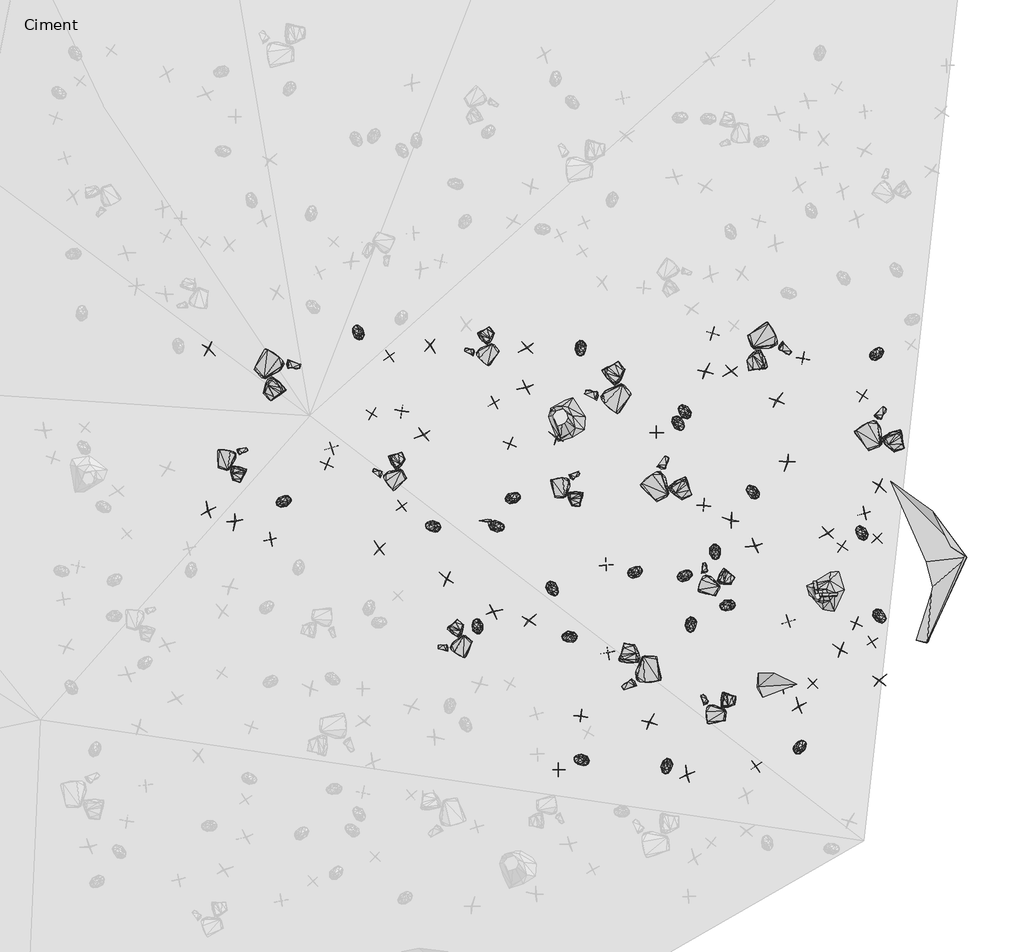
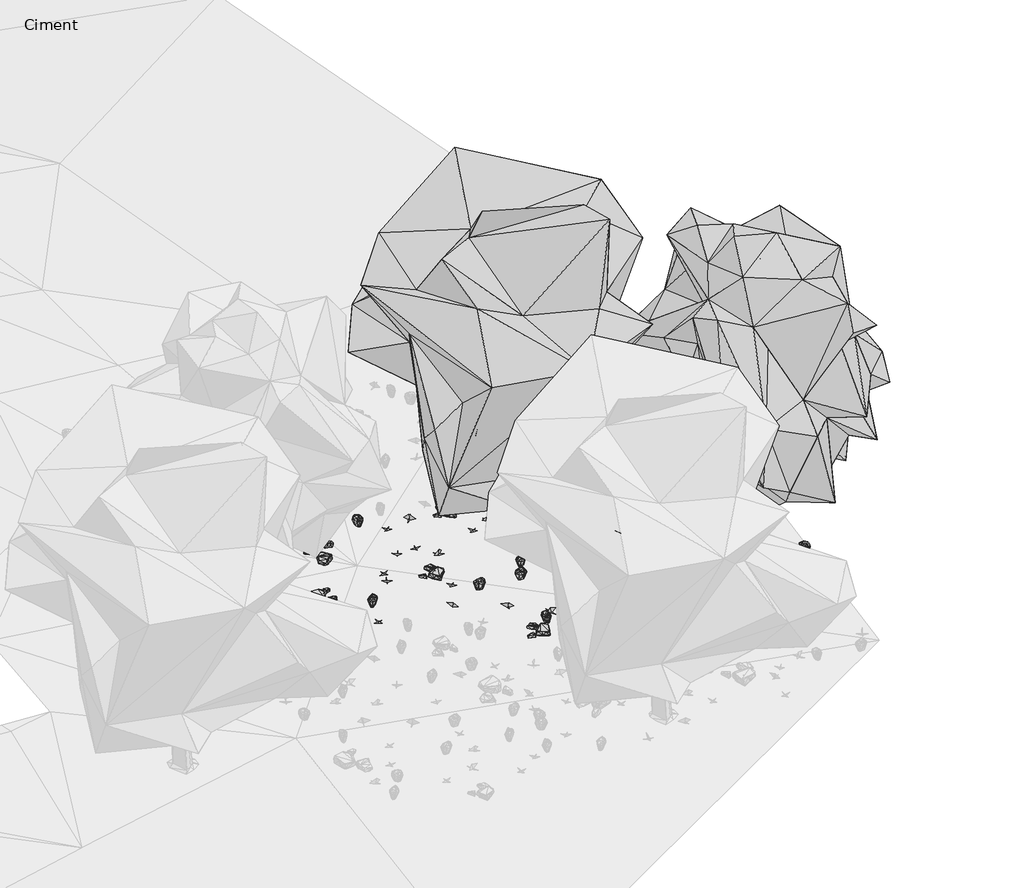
# One storey, part 17 of 30: 90 geographic elements.
"""IFC4 building model written with IfcOpenShell, lengths in millimetres."""

from ifc_helpers import new_model, si_unit, origin, place, context, project, spatial, transform, mapped, element, save
from components import enscape_assetdefinition_bush_025_fern_enscape_5718bf32, enscape_assetdefinition_bush_054_plant_09_version_2_enscape_7b546a12, enscape_assetdefinition_bush_062_plant_09_version_3_enscape_ccf8c8eb, enscape_assetdefinition_deciduous_tree_024_elm_enscape_8f9d8ef3, enscape_assetdefinition_deciduous_tree_029_elm_enscape_e4c49baf, enscape_assetdefinition_stone_013_group_enscape_516da325, enscape_assetdefinition_stone_013_group_enscape_db9b3e91

model = new_model("IFC4")

# Units and contexts
model_context = context("Model", 3, world=origin())
ifc_project = project(units=[si_unit("LENGTHUNIT", "METRE", prefix="MILLI")], contexts=[model_context])

# Site, building, storey
site = spatial("IfcSite", under=ifc_project)
building = spatial("IfcBuilding", under=site)
storey = spatial("IfcBuildingStorey", under=building, Name="Ciment", Elevation=-1500.0)

# Geographic elements
placement = place(None, origin())
enscape_assetdefinition_bush_025_fern_enscape_shape = enscape_assetdefinition_bush_025_fern_enscape_5718bf32(model_context)
element("IfcGeographicElement", 1, ObjectType="Enscape AssetDefinition - Bush 025 Fern : Enscape AssetDefinition - Bush 025 Fern", at=placement, inside=storey, context=model_context, shape_type="MappedRepresentation", body=[
    mapped(enscape_assetdefinition_bush_025_fern_enscape_shape, transform((24476.858139, -12371.3550568, -2653.9306641), x_axis=(0.8553217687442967, 0.5180971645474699, 0.0), y_axis=(-0.5180971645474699, 0.8553217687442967, 0.0), z_axis=(0.0, 0.0, 1.0))),
])
element("IfcGeographicElement", 2, ObjectType="Enscape AssetDefinition - Bush 025 Fern : Enscape AssetDefinition - Bush 025 Fern", at=placement, inside=storey, context=model_context, shape_type="MappedRepresentation", body=[
    mapped(enscape_assetdefinition_bush_025_fern_enscape_shape, transform((27577.1465302, -11607.3093414, -2939.1441345), x_axis=(-0.6570404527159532, 0.7538553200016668, 0.0), y_axis=(-0.7538553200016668, -0.6570404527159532, 0.0), z_axis=(0.0, 0.0, 1.0))),
])
element("IfcGeographicElement", 3, ObjectType="Enscape AssetDefinition - Bush 025 Fern : Enscape AssetDefinition - Bush 025 Fern", at=placement, inside=storey, context=model_context, shape_type="MappedRepresentation", body=[
    mapped(enscape_assetdefinition_bush_025_fern_enscape_shape, transform((24144.3881989, -15725.3093719, -2717.1478271), x_axis=(-0.09133398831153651, -0.9958203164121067, 0.0), y_axis=(0.9958203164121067, -0.09133398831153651, 0.0), z_axis=(0.0, 0.0, 1.0))),
])
element("IfcGeographicElement", 4, ObjectType="Enscape AssetDefinition - Bush 025 Fern : Enscape AssetDefinition - Bush 025 Fern", at=placement, inside=storey, context=model_context, shape_type="MappedRepresentation", body=[
    mapped(enscape_assetdefinition_bush_025_fern_enscape_shape, transform((24996.099472, -11958.524704, -2698.7047195), x_axis=(0.2058725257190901, -0.9785788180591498, 0.0), y_axis=(0.9785788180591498, 0.2058725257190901, 0.0), z_axis=(0.0, 0.0, 1.0))),
])
element("IfcGeographicElement", 5, ObjectType="Enscape AssetDefinition - Bush 025 Fern : Enscape AssetDefinition - Bush 025 Fern", at=placement, inside=storey, context=model_context, shape_type="MappedRepresentation", body=[
    mapped(enscape_assetdefinition_bush_025_fern_enscape_shape, transform((23603.6319733, -12305.9978485, -2570.6484318), x_axis=(0.8403630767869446, 0.5420238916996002, 0.0), y_axis=(-0.5420238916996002, 0.8403630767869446, 0.0), z_axis=(0.0, 0.0, 1.0))),
])
element("IfcGeographicElement", 6, ObjectType="Enscape AssetDefinition - Bush 025 Fern : Enscape AssetDefinition - Bush 025 Fern", at=placement, inside=storey, context=model_context, shape_type="MappedRepresentation", body=[
    mapped(enscape_assetdefinition_bush_025_fern_enscape_shape, transform((25210.767746, -12887.5951767, -2728.7731171), x_axis=(-0.9468713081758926, -0.3216126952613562, 0.0), y_axis=(0.3216126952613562, -0.9468713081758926, 0.0), z_axis=(0.0, 0.0, 1.0))),
])
element("IfcGeographicElement", 7, ObjectType="Enscape AssetDefinition - Bush 025 Fern : Enscape AssetDefinition - Bush 025 Fern", at=placement, inside=storey, context=model_context, shape_type="MappedRepresentation", body=[
    mapped(enscape_assetdefinition_bush_025_fern_enscape_shape, transform((27848.6270905, -8466.4211273, -2931.8127632), x_axis=(0.6441219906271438, 0.7649227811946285, 0.0), y_axis=(-0.7649227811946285, 0.6441219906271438, 0.0), z_axis=(0.0, 0.0, 1.0))),
])
element("IfcGeographicElement", 8, ObjectType="Enscape AssetDefinition - Bush 025 Fern : Enscape AssetDefinition - Bush 025 Fern", at=placement, inside=storey, context=model_context, shape_type="MappedRepresentation", body=[
    mapped(enscape_assetdefinition_bush_025_fern_enscape_shape, transform((17426.7482758, -11062.4742508, -2054.1768074), x_axis=(0.8637022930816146, 0.5040023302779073, 0.0), y_axis=(-0.5040023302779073, 0.8637022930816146, 0.0), z_axis=(0.0, 0.0, 1.0))),
])
element("IfcGeographicElement", 9, ObjectType="Enscape AssetDefinition - Bush 025 Fern : Enscape AssetDefinition - Bush 025 Fern", at=placement, inside=storey, context=model_context, shape_type="MappedRepresentation", body=[
    mapped(enscape_assetdefinition_bush_025_fern_enscape_shape, transform((20036.9548798, -11496.9577789, -2237.1683121), x_axis=(-0.995353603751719, 0.09628708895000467, 0.0), y_axis=(-0.09628708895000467, -0.995353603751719, 0.0), z_axis=(0.0, 0.0, 1.0))),
])
element("IfcGeographicElement", 10, ObjectType="Enscape AssetDefinition - Bush 025 Fern : Enscape AssetDefinition - Bush 025 Fern", at=placement, inside=storey, context=model_context, shape_type="MappedRepresentation", body=[
    mapped(enscape_assetdefinition_bush_025_fern_enscape_shape, transform((24463.7775421, -9476.2401581, -2622.2667694), x_axis=(-0.7099635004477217, 0.7042384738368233, 0.0), y_axis=(-0.7042384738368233, -0.7099635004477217, 0.0), z_axis=(0.0, 0.0, 1.0))),
])
element("IfcGeographicElement", 11, ObjectType="Enscape AssetDefinition - Bush 025 Fern : Enscape AssetDefinition - Bush 025 Fern", at=placement, inside=storey, context=model_context, shape_type="MappedRepresentation", body=[
    mapped(enscape_assetdefinition_bush_025_fern_enscape_shape, transform((24351.644516, -9698.5111237, -2613.9965057), x_axis=(0.655066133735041, -0.7555715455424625, 0.0), y_axis=(0.7555715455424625, 0.655066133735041, 0.0), z_axis=(0.0, 0.0, 1.0))),
])
element("IfcGeographicElement", 12, ObjectType="Enscape AssetDefinition - Bush 025 Fern : Enscape AssetDefinition - Bush 025 Fern", at=placement, inside=storey, context=model_context, shape_type="MappedRepresentation", body=[
    mapped(enscape_assetdefinition_bush_025_fern_enscape_shape, transform((26498.003006, -15376.5583038, -2876.6856194), x_axis=(0.5405246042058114, 0.8413282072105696, 0.0), y_axis=(-0.8413282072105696, 0.5405246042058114, 0.0), z_axis=(0.0, 0.0, 1.0))),
])
element("IfcGeographicElement", 13, ObjectType="Enscape AssetDefinition - Bush 025 Fern : Enscape AssetDefinition - Bush 025 Fern", at=placement, inside=storey, context=model_context, shape_type="MappedRepresentation", body=[
    mapped(enscape_assetdefinition_bush_025_fern_enscape_shape, transform((24570.2724457, -13235.7082367, -2671.849966), x_axis=(0.0005628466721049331, -0.9999998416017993, 0.0), y_axis=(0.9999998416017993, 0.0005628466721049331, 0.0), z_axis=(0.0, 0.0, 1.0))),
])
element("IfcGeographicElement", 14, ObjectType="Enscape AssetDefinition - Bush 025 Fern : Enscape AssetDefinition - Bush 025 Fern", at=placement, inside=storey, context=model_context, shape_type="MappedRepresentation", body=[
    mapped(enscape_assetdefinition_bush_025_fern_enscape_shape, transform((21456.6574097, -11003.7069321, -2353.8887501), x_axis=(0.8968940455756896, 0.44224548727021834, 0.0), y_axis=(-0.44224548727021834, 0.8968940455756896, 0.0), z_axis=(0.0, 0.0, 1.0))),
])
element("IfcGeographicElement", 15, ObjectType="Enscape AssetDefinition - Bush 025 Fern : Enscape AssetDefinition - Bush 025 Fern", at=placement, inside=storey, context=model_context, shape_type="MappedRepresentation", body=[
    mapped(enscape_assetdefinition_bush_025_fern_enscape_shape, transform((22434.7476959, -13439.5503998, -2488.8827801), x_axis=(-0.9888540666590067, -0.14888799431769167, 0.0), y_axis=(0.14888799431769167, -0.9888540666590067, 0.0), z_axis=(0.0, 0.0, 1.0))),
])
element("IfcGeographicElement", 16, ObjectType="Enscape AssetDefinition - Bush 025 Fern : Enscape AssetDefinition - Bush 025 Fern", at=placement, inside=storey, context=model_context, shape_type="MappedRepresentation", body=[
    mapped(enscape_assetdefinition_bush_025_fern_enscape_shape, transform((22632.4806213, -8377.0046234, -2437.5), x_axis=(0.08416086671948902, -0.9964521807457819, 0.0), y_axis=(0.9964521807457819, 0.08416086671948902, 0.0), z_axis=(0.0, 0.0, 1.0))),
])
element("IfcGeographicElement", 17, ObjectType="Enscape AssetDefinition - Bush 025 Fern : Enscape AssetDefinition - Bush 025 Fern", at=placement, inside=storey, context=model_context, shape_type="MappedRepresentation", body=[
    mapped(enscape_assetdefinition_bush_025_fern_enscape_shape, transform((27892.911911, -13087.9831314, -2984.572649), x_axis=(0.7710376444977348, -0.6367895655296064, 0.0), y_axis=(0.6367895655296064, 0.7710376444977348, 0.0), z_axis=(0.0, 0.0, 1.0))),
])
element("IfcGeographicElement", 18, ObjectType="Enscape AssetDefinition - Bush 025 Fern : Enscape AssetDefinition - Bush 025 Fern", at=placement, inside=storey, context=model_context, shape_type="MappedRepresentation", body=[
    mapped(enscape_assetdefinition_bush_025_fern_enscape_shape, transform((25662.2638702, -10889.7304535, -2750.4816055), x_axis=(-0.7705712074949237, 0.6373539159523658, 0.0), y_axis=(-0.6373539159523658, -0.7705712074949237, 0.0), z_axis=(0.0, 0.0, 1.0))),
])
element("IfcGeographicElement", 19, ObjectType="Enscape AssetDefinition - Bush 025 Fern : Enscape AssetDefinition - Bush 025 Fern", at=placement, inside=storey, context=model_context, shape_type="MappedRepresentation", body=[
    mapped(enscape_assetdefinition_bush_025_fern_enscape_shape, transform((20825.2353668, -13249.9828339, -2380.2895546), x_axis=(-0.30903769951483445, 0.9510497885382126, 0.0), y_axis=(-0.9510497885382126, -0.30903769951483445, 0.0), z_axis=(0.0, 0.0, 1.0))),
])
element("IfcGeographicElement", 20, ObjectType="Enscape AssetDefinition - Bush 025 Fern : Enscape AssetDefinition - Bush 025 Fern", at=placement, inside=storey, context=model_context, shape_type="MappedRepresentation", body=[
    mapped(enscape_assetdefinition_bush_025_fern_enscape_shape, transform((22140.2683258, -12606.7676544, -2435.3964329), x_axis=(0.6488297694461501, -0.7609335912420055, 0.0), y_axis=(0.7609335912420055, 0.6488297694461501, 0.0), z_axis=(0.0, 0.0, 1.0))),
])
element("IfcGeographicElement", 21, ObjectType="Enscape AssetDefinition - Bush 025 Fern : Enscape AssetDefinition - Bush 025 Fern", at=placement, inside=storey, context=model_context, shape_type="MappedRepresentation", body=[
    mapped(enscape_assetdefinition_bush_025_fern_enscape_shape, transform((21165.9374237, -11506.1588287, -2331.6712379), x_axis=(0.9928545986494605, -0.11933040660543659, 0.0), y_axis=(0.11933040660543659, 0.9928545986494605, 0.0), z_axis=(0.0, 0.0, 1.0))),
])
element("IfcGeographicElement", 22, ObjectType="Enscape AssetDefinition - Bush 025 Fern : Enscape AssetDefinition - Bush 025 Fern", at=placement, inside=storey, context=model_context, shape_type="MappedRepresentation", body=[
    mapped(enscape_assetdefinition_bush_025_fern_enscape_shape, transform((18728.4107208, -8084.4583511, -2036.693573), x_axis=(-0.5362876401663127, 0.8440352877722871, 0.0), y_axis=(-0.8440352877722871, -0.5362876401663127, 0.0), z_axis=(0.0, 0.0, 1.0))),
])
element("IfcGeographicElement", 23, ObjectType="Enscape AssetDefinition - Bush 025 Fern : Enscape AssetDefinition - Bush 025 Fern", at=placement, inside=storey, context=model_context, shape_type="MappedRepresentation", body=[
    mapped(enscape_assetdefinition_bush_025_fern_enscape_shape, transform((22647.7031708, -15601.7408371, -2619.0233231), x_axis=(-0.9945628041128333, 0.1041385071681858, 0.0), y_axis=(-0.1041385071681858, -0.9945628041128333, 0.0), z_axis=(0.0, 0.0, 1.0))),
])
enscape_assetdefinition_bush_054_plant_09_version_2_enscape_shape = enscape_assetdefinition_bush_054_plant_09_version_2_enscape_7b546a12(model_context)
element("IfcGeographicElement", 24, ObjectType="Enscape AssetDefinition - Bush 054 Plant 09, Version 2 : Enscape AssetDefinition - Bush 054 Plant 09, Version 2", at=placement, inside=storey, context=model_context, shape_type="MappedRepresentation", body=[
    mapped(enscape_assetdefinition_bush_054_plant_09_version_2_enscape_shape, transform((27235.1703644, -11851.8047333, -2909.3675613), x_axis=(-0.8628318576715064, 0.5054910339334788, 0.0), y_axis=(-0.5054910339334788, -0.8628318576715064, 0.0), z_axis=(0.0, 0.0, 1.0))),
])
element("IfcGeographicElement", 25, ObjectType="Enscape AssetDefinition - Bush 054 Plant 09, Version 2 : Enscape AssetDefinition - Bush 054 Plant 09, Version 2", at=placement, inside=storey, context=model_context, shape_type="MappedRepresentation", body=[
    mapped(enscape_assetdefinition_bush_054_plant_09_version_2_enscape_shape, transform((23122.0722198, -13721.1475372, -2546.1249352), x_axis=(-0.2229582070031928, 0.9748280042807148, 0.0), y_axis=(-0.9748280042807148, -0.2229582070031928, 0.0), z_axis=(0.0, 0.0, 1.0))),
])
element("IfcGeographicElement", 26, ObjectType="Enscape AssetDefinition - Bush 054 Plant 09, Version 2 : Enscape AssetDefinition - Bush 054 Plant 09, Version 2", at=placement, inside=storey, context=model_context, shape_type="MappedRepresentation", body=[
    mapped(enscape_assetdefinition_bush_054_plant_09_version_2_enscape_shape, transform((18967.6036835, -9526.9422531, -2102.9396057), x_axis=(0.8827596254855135, -0.46982490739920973, 0.0), y_axis=(0.46982490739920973, 0.8827596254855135, 0.0), z_axis=(0.0, 0.0, 1.0))),
])
element("IfcGeographicElement", 27, ObjectType="Enscape AssetDefinition - Bush 054 Plant 09, Version 2 : Enscape AssetDefinition - Bush 054 Plant 09, Version 2", at=placement, inside=storey, context=model_context, shape_type="MappedRepresentation", body=[
    mapped(enscape_assetdefinition_bush_054_plant_09_version_2_enscape_shape, transform((27852.7431488, -11708.1651688, -2966.2714005), x_axis=(-0.7366439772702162, 0.6762807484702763, 0.0), y_axis=(-0.6762807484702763, -0.7366439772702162, 0.0), z_axis=(0.0, 0.0, 1.0))),
])
element("IfcGeographicElement", 28, ObjectType="Enscape AssetDefinition - Bush 054 Plant 09, Version 2 : Enscape AssetDefinition - Bush 054 Plant 09, Version 2", at=placement, inside=storey, context=model_context, shape_type="MappedRepresentation", body=[
    mapped(enscape_assetdefinition_bush_054_plant_09_version_2_enscape_shape, transform((25718.4505463, -15712.7513885, -2812.6249313), x_axis=(-0.7864803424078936, -0.6176153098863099, 0.0), y_axis=(0.6176153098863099, -0.7864803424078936, 0.0), z_axis=(0.0, 0.0, 1.0))),
])
element("IfcGeographicElement", 29, ObjectType="Enscape AssetDefinition - Bush 054 Plant 09, Version 2 : Enscape AssetDefinition - Bush 054 Plant 09, Version 2", at=placement, inside=storey, context=model_context, shape_type="MappedRepresentation", body=[
    mapped(enscape_assetdefinition_bush_054_plant_09_version_2_enscape_shape, transform((18174.4976044, -10408.5941315, -2064.4335747), x_axis=(-0.33300567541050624, -0.9429248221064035, 0.0), y_axis=(0.9429248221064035, -0.33300567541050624, 0.0), z_axis=(0.0, 0.0, 1.0))),
])
element("IfcGeographicElement", 30, ObjectType="Enscape AssetDefinition - Bush 054 Plant 09, Version 2 : Enscape AssetDefinition - Bush 054 Plant 09, Version 2", at=placement, inside=storey, context=model_context, shape_type="MappedRepresentation", body=[
    mapped(enscape_assetdefinition_bush_054_plant_09_version_2_enscape_shape, transform((18264.2803192, -10121.7861176, -2054.3808937), x_axis=(-0.33673991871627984, 0.9415976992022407, 0.0), y_axis=(-0.9415976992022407, -0.33673991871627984, 0.0), z_axis=(0.0, 0.0, 1.0))),
])
element("IfcGeographicElement", 31, ObjectType="Enscape AssetDefinition - Bush 054 Plant 09, Version 2 : Enscape AssetDefinition - Bush 054 Plant 09, Version 2", at=placement, inside=storey, context=model_context, shape_type="MappedRepresentation", body=[
    mapped(enscape_assetdefinition_bush_054_plant_09_version_2_enscape_shape, transform((26284.8796844, -13176.1074066, -2833.40168), x_axis=(0.35390799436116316, -0.9352802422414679, 0.0), y_axis=(0.9352802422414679, 0.35390799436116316, 0.0), z_axis=(0.0, 0.0, 1.0))),
])
element("IfcGeographicElement", 32, ObjectType="Enscape AssetDefinition - Bush 054 Plant 09, Version 2 : Enscape AssetDefinition - Bush 054 Plant 09, Version 2", at=placement, inside=storey, context=model_context, shape_type="MappedRepresentation", body=[
    mapped(enscape_assetdefinition_bush_054_plant_09_version_2_enscape_shape, transform((22635.427475, -14834.8636627, -2576.7300129), x_axis=(-0.0638697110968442, -0.9979582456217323, 0.0), y_axis=(0.9979582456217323, -0.0638697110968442, 0.0), z_axis=(0.0, 0.0, 1.0))),
])
element("IfcGeographicElement", 33, ObjectType="Enscape AssetDefinition - Bush 054 Plant 09, Version 2 : Enscape AssetDefinition - Bush 054 Plant 09, Version 2", at=placement, inside=storey, context=model_context, shape_type="MappedRepresentation", body=[
    mapped(enscape_assetdefinition_bush_054_plant_09_version_2_enscape_shape, transform((17187.9863739, -11736.6695404, -2076.1146545), x_axis=(0.9692693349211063, 0.24600194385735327, 0.0), y_axis=(-0.24600194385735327, 0.9692693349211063, 0.0), z_axis=(0.0, 0.0, 1.0))),
])
element("IfcGeographicElement", 34, ObjectType="Enscape AssetDefinition - Bush 054 Plant 09, Version 2 : Enscape AssetDefinition - Bush 054 Plant 09, Version 2", at=placement, inside=storey, context=model_context, shape_type="MappedRepresentation", body=[
    mapped(enscape_assetdefinition_bush_054_plant_09_version_2_enscape_shape, transform((24957.1781158, -8106.836319, -2654.5436382), x_axis=(-0.9748022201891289, 0.22307091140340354, 0.0), y_axis=(-0.22307091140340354, -0.9748022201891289, 0.0), z_axis=(0.0, 0.0, 1.0))),
])
element("IfcGeographicElement", 35, ObjectType="Enscape AssetDefinition - Bush 054 Plant 09, Version 2 : Enscape AssetDefinition - Bush 054 Plant 09, Version 2", at=placement, inside=storey, context=model_context, shape_type="MappedRepresentation", body=[
    mapped(enscape_assetdefinition_bush_054_plant_09_version_2_enscape_shape, transform((26720.1099396, -14265.3522491, -2886.0154152), x_axis=(0.6772653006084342, 0.7357388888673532, 0.0), y_axis=(-0.7357388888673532, 0.6772653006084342, 0.0), z_axis=(0.0, 0.0, 1.0))),
])
element("IfcGeographicElement", 36, ObjectType="Enscape AssetDefinition - Bush 054 Plant 09, Version 2 : Enscape AssetDefinition - Bush 054 Plant 09, Version 2", at=placement, inside=storey, context=model_context, shape_type="MappedRepresentation", body=[
    mapped(enscape_assetdefinition_bush_054_plant_09_version_2_enscape_shape, transform((27625.711441, -11277.2769928, -2940.2694702), x_axis=(0.9551518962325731, 0.29611628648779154, 0.0), y_axis=(-0.29611628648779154, 0.9551518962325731, 0.0), z_axis=(0.0, 0.0, 1.0))),
])
element("IfcGeographicElement", 37, ObjectType="Enscape AssetDefinition - Bush 054 Plant 09, Version 2 : Enscape AssetDefinition - Bush 054 Plant 09, Version 2", at=placement, inside=storey, context=model_context, shape_type="MappedRepresentation", body=[
    mapped(enscape_assetdefinition_bush_054_plant_09_version_2_enscape_shape, transform((23080.9421539, -12178.776741, -2519.8726654), x_axis=(0.09307199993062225, -0.9956593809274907, 0.0), y_axis=(0.9956593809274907, 0.09307199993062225, 0.0), z_axis=(0.0, 0.0, 1.0))),
])
element("IfcGeographicElement", 38, ObjectType="Enscape AssetDefinition - Bush 054 Plant 09, Version 2 : Enscape AssetDefinition - Bush 054 Plant 09, Version 2", at=placement, inside=storey, context=model_context, shape_type="MappedRepresentation", body=[
    mapped(enscape_assetdefinition_bush_054_plant_09_version_2_enscape_shape, transform((19280.5156708, -8512.4378204, -2121.8745708), x_axis=(0.7826651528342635, 0.6224429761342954, 0.0), y_axis=(-0.6224429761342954, 0.7826651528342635, 0.0), z_axis=(0.0, 0.0, 1.0))),
])
element("IfcGeographicElement", 39, ObjectType="Enscape AssetDefinition - Bush 054 Plant 09, Version 2 : Enscape AssetDefinition - Bush 054 Plant 09, Version 2", at=placement, inside=storey, context=model_context, shape_type="MappedRepresentation", body=[
    mapped(enscape_assetdefinition_bush_054_plant_09_version_2_enscape_shape, transform((21120.5768585, -9332.4136734, -2304.5358658), x_axis=(0.8509422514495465, 0.5252592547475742, 0.0), y_axis=(-0.5252592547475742, 0.8509422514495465, 0.0), z_axis=(0.0, 0.0, 1.0))),
])
element("IfcGeographicElement", 40, ObjectType="Enscape AssetDefinition - Bush 054 Plant 09, Version 2 : Enscape AssetDefinition - Bush 054 Plant 09, Version 2", at=placement, inside=storey, context=model_context, shape_type="MappedRepresentation", body=[
    mapped(enscape_assetdefinition_bush_054_plant_09_version_2_enscape_shape, transform((19495.0199127, -9478.811264, -2152.3199081), x_axis=(0.09589403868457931, 0.9953915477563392, 0.0), y_axis=(-0.9953915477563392, 0.09589403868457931, 0.0), z_axis=(0.0, 0.0, 1.0))),
])
element("IfcGeographicElement", 41, ObjectType="Enscape AssetDefinition - Bush 054 Plant 09, Version 2 : Enscape AssetDefinition - Bush 054 Plant 09, Version 2", at=placement, inside=storey, context=model_context, shape_type="MappedRepresentation", body=[
    mapped(enscape_assetdefinition_bush_054_plant_09_version_2_enscape_shape, transform((27477.8347015, -13203.7248611, -2946.5281963), x_axis=(-0.9475351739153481, 0.31965151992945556, 0.0), y_axis=(-0.31965151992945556, -0.9475351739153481, 0.0), z_axis=(0.0, 0.0, 1.0))),
])
element("IfcGeographicElement", 42, ObjectType="Enscape AssetDefinition - Bush 054 Plant 09, Version 2 : Enscape AssetDefinition - Bush 054 Plant 09, Version 2", at=placement, inside=storey, context=model_context, shape_type="MappedRepresentation", body=[
    mapped(enscape_assetdefinition_bush_054_plant_09_version_2_enscape_shape, transform((19499.4754791, -11151.6857147, -2185.6300831), x_axis=(0.7582413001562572, 0.6519740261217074, 0.0), y_axis=(-0.6519740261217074, 0.7582413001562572, 0.0), z_axis=(0.0, 0.0, 1.0))),
])
element("IfcGeographicElement", 43, ObjectType="Enscape AssetDefinition - Bush 054 Plant 09, Version 2 : Enscape AssetDefinition - Bush 054 Plant 09, Version 2", at=placement, inside=storey, context=model_context, shape_type="MappedRepresentation", body=[
    mapped(enscape_assetdefinition_bush_054_plant_09_version_2_enscape_shape, transform((21390.7985687, -10048.2473373, -2337.6178741), x_axis=(-0.3190666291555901, -0.947732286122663, 0.0), y_axis=(0.947732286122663, -0.3190666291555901, 0.0), z_axis=(0.0, 0.0, 1.0))),
])
element("IfcGeographicElement", 44, ObjectType="Enscape AssetDefinition - Bush 054 Plant 09, Version 2 : Enscape AssetDefinition - Bush 054 Plant 09, Version 2", at=placement, inside=storey, context=model_context, shape_type="MappedRepresentation", body=[
    mapped(enscape_assetdefinition_bush_054_plant_09_version_2_enscape_shape, transform((23964.7121429, -9851.4728546, -2579.0057182), x_axis=(0.06889170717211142, -0.9976241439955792, 0.0), y_axis=(0.9976241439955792, 0.06889170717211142, 0.0), z_axis=(0.0, 0.0, 1.0))),
])
element("IfcGeographicElement", 45, ObjectType="Enscape AssetDefinition - Bush 054 Plant 09, Version 2 : Enscape AssetDefinition - Bush 054 Plant 09, Version 2", at=placement, inside=storey, context=model_context, shape_type="MappedRepresentation", body=[
    mapped(enscape_assetdefinition_bush_054_plant_09_version_2_enscape_shape, transform((27757.8105927, -13526.2851715, -2976.3996601), x_axis=(-0.8101010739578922, -0.5862902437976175, 0.0), y_axis=(0.5862902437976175, -0.8101010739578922, 0.0), z_axis=(0.0, 0.0, 1.0))),
])
element("IfcGeographicElement", 46, ObjectType="Enscape AssetDefinition - Bush 054 Plant 09, Version 2 : Enscape AssetDefinition - Bush 054 Plant 09, Version 2", at=placement, inside=storey, context=model_context, shape_type="MappedRepresentation", body=[
    mapped(enscape_assetdefinition_bush_054_plant_09_version_2_enscape_shape, transform((27594.0265656, -9204.410553, -2915.4868126), x_axis=(0.8759943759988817, -0.48232131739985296, 0.0), y_axis=(0.48232131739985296, 0.8759943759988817, 0.0), z_axis=(0.0, 0.0, 1.0))),
])
element("IfcGeographicElement", 47, ObjectType="Enscape AssetDefinition - Bush 054 Plant 09, Version 2 : Enscape AssetDefinition - Bush 054 Plant 09, Version 2", at=placement, inside=storey, context=model_context, shape_type="MappedRepresentation", body=[
    mapped(enscape_assetdefinition_bush_054_plant_09_version_2_enscape_shape, transform((24797.6589203, -11130.1250458, -2671.2291241), x_axis=(-0.021098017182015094, -0.9997774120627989, 0.0), y_axis=(0.9997774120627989, -0.021098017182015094, 0.0), z_axis=(0.0, 0.0, 1.0))),
])
element("IfcGeographicElement", 48, ObjectType="Enscape AssetDefinition - Bush 054 Plant 09, Version 2 : Enscape AssetDefinition - Bush 054 Plant 09, Version 2", at=placement, inside=storey, context=model_context, shape_type="MappedRepresentation", body=[
    mapped(enscape_assetdefinition_bush_054_plant_09_version_2_enscape_shape, transform((26541.1586761, -8548.1281281, -2809.00383), x_axis=(-0.12236940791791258, -0.9924846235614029, 0.0), y_axis=(0.9924846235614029, -0.12236940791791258, 0.0), z_axis=(0.0, 0.0, 1.0))),
])
element("IfcGeographicElement", 49, ObjectType="Enscape AssetDefinition - Bush 054 Plant 09, Version 2 : Enscape AssetDefinition - Bush 054 Plant 09, Version 2", at=placement, inside=storey, context=model_context, shape_type="MappedRepresentation", body=[
    mapped(enscape_assetdefinition_bush_054_plant_09_version_2_enscape_shape, transform((22246.5267181, -15777.8272629, -2604.0554047), x_axis=(-0.9984560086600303, -0.0555481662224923, 0.0), y_axis=(0.0555481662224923, -0.9984560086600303, 0.0), z_axis=(0.0, 0.0, 1.0))),
])
enscape_assetdefinition_bush_062_plant_09_version_3_enscape_shape = enscape_assetdefinition_bush_062_plant_09_version_3_enscape_ccf8c8eb(model_context)
element("IfcGeographicElement", 50, ObjectType="Enscape AssetDefinition - Bush 062 Plant 09, Version 3 : Enscape AssetDefinition - Bush 062 Plant 09, Version 3", at=placement, inside=storey, context=model_context, shape_type="MappedRepresentation", body=[
    mapped(enscape_assetdefinition_bush_062_plant_09_version_3_enscape_shape, transform((26091.5870667, -9277.9598236, -2774.1513252), x_axis=(0.9693727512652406, -0.24559411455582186, 0.0), y_axis=(0.24559411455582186, 0.9693727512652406, 0.0), z_axis=(0.0, 0.0, 1.0))),
])
element("IfcGeographicElement", 51, ObjectType="Enscape AssetDefinition - Bush 062 Plant 09, Version 3 : Enscape AssetDefinition - Bush 062 Plant 09, Version 3", at=placement, inside=storey, context=model_context, shape_type="MappedRepresentation", body=[
    mapped(enscape_assetdefinition_bush_062_plant_09_version_3_enscape_shape, transform((20272.1767426, -12417.8905487, -2301.4268875), x_axis=(0.3141749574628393, 0.949365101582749, 0.0), y_axis=(-0.949365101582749, 0.3141749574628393, 0.0), z_axis=(0.0, 0.0, 1.0))),
])
element("IfcGeographicElement", 52, ObjectType="Enscape AssetDefinition - Bush 062 Plant 09, Version 3 : Enscape AssetDefinition - Bush 062 Plant 09, Version 3", at=placement, inside=storey, context=model_context, shape_type="MappedRepresentation", body=[
    mapped(enscape_assetdefinition_bush_062_plant_09_version_3_enscape_shape, transform((21666.7976379, -9065.0787354, -2353.3914089), x_axis=(-0.5471867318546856, 0.8370105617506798, 0.0), y_axis=(-0.8370105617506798, -0.5471867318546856, 0.0), z_axis=(0.0, 0.0, 1.0))),
])
element("IfcGeographicElement", 53, ObjectType="Enscape AssetDefinition - Bush 062 Plant 09, Version 3 : Enscape AssetDefinition - Bush 062 Plant 09, Version 3", at=placement, inside=storey, context=model_context, shape_type="MappedRepresentation", body=[
    mapped(enscape_assetdefinition_bush_062_plant_09_version_3_enscape_shape, transform((24831.4990997, -8768.4745789, -2649.6100426), x_axis=(0.9943330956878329, -0.10630942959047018, 0.0), y_axis=(0.10630942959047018, 0.9943330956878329, 0.0), z_axis=(0.0, 0.0, 1.0))),
])
element("IfcGeographicElement", 54, ObjectType="Enscape AssetDefinition - Bush 062 Plant 09, Version 3 : Enscape AssetDefinition - Bush 062 Plant 09, Version 3", at=placement, inside=storey, context=model_context, shape_type="MappedRepresentation", body=[
    mapped(enscape_assetdefinition_bush_062_plant_09_version_3_enscape_shape, transform((26270.2693939, -10381.685257, -2802.6511669), x_axis=(-0.9966463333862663, -0.08182961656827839, 0.0), y_axis=(0.08182961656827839, -0.9966463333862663, 0.0), z_axis=(0.0, 0.0, 1.0))),
])
element("IfcGeographicElement", 55, ObjectType="Enscape AssetDefinition - Bush 062 Plant 09, Version 3 : Enscape AssetDefinition - Bush 062 Plant 09, Version 3", at=placement, inside=storey, context=model_context, shape_type="MappedRepresentation", body=[
    mapped(enscape_assetdefinition_bush_062_plant_09_version_3_enscape_shape, transform((27894.0753937, -10793.7450409, -2960.5712891), x_axis=(-0.34432029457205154, -0.9388522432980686, 0.0), y_axis=(0.9388522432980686, -0.34432029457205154, 0.0), z_axis=(0.0, 0.0, 1.0))),
])
element("IfcGeographicElement", 56, ObjectType="Enscape AssetDefinition - Bush 062 Plant 09, Version 3 : Enscape AssetDefinition - Bush 062 Plant 09, Version 3", at=placement, inside=storey, context=model_context, shape_type="MappedRepresentation", body=[
    mapped(enscape_assetdefinition_bush_062_plant_09_version_3_enscape_shape, transform((16561.6207123, -11425.4932404, -2020.9934711), x_axis=(-0.9736658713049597, -0.22797976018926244, 0.0), y_axis=(0.22797976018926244, -0.9736658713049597, 0.0), z_axis=(0.0, 0.0, 1.0))),
])
element("IfcGeographicElement", 57, ObjectType="Enscape AssetDefinition - Bush 062 Plant 09, Version 3 : Enscape AssetDefinition - Bush 062 Plant 09, Version 3", at=placement, inside=storey, context=model_context, shape_type="MappedRepresentation", body=[
    mapped(enscape_assetdefinition_bush_062_plant_09_version_3_enscape_shape, transform((25272.6268768, -11395.2732086, -2718.9407349), x_axis=(-0.08271480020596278, 0.9965732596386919, 0.0), y_axis=(-0.9965732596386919, -0.08271480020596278, 0.0), z_axis=(0.0, 0.0, 1.0))),
])
element("IfcGeographicElement", 58, ObjectType="Enscape AssetDefinition - Bush 062 Plant 09, Version 3 : Enscape AssetDefinition - Bush 062 Plant 09, Version 3", at=placement, inside=storey, context=model_context, shape_type="MappedRepresentation", body=[
    mapped(enscape_assetdefinition_bush_062_plant_09_version_3_enscape_shape, transform((27195.9400177, -13668.390274, -2924.7481823), x_axis=(0.2387552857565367, 0.9710797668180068, 0.0), y_axis=(-0.9710797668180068, 0.2387552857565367, 0.0), z_axis=(0.0, 0.0, 1.0))),
])
element("IfcGeographicElement", 59, ObjectType="Enscape AssetDefinition - Bush 062 Plant 09, Version 3 : Enscape AssetDefinition - Bush 062 Plant 09, Version 3", at=placement, inside=storey, context=model_context, shape_type="MappedRepresentation", body=[
    mapped(enscape_assetdefinition_bush_062_plant_09_version_3_enscape_shape, transform((24501.499176, -15857.4972153, -2746.1242676), x_axis=(0.8701462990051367, 0.49279348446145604, 0.0), y_axis=(-0.49279348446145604, 0.8701462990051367, 0.0), z_axis=(0.0, 0.0, 1.0))),
])
element("IfcGeographicElement", 60, ObjectType="Enscape AssetDefinition - Bush 062 Plant 09, Version 3 : Enscape AssetDefinition - Bush 062 Plant 09, Version 3", at=placement, inside=storey, context=model_context, shape_type="MappedRepresentation", body=[
    mapped(enscape_assetdefinition_bush_062_plant_09_version_3_enscape_shape, transform((16104.7897339, -8387.5522614, -1715.1277065), x_axis=(-0.36278107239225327, -0.9318743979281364, 0.0), y_axis=(0.9318743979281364, -0.36278107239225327, 0.0), z_axis=(0.0, 0.0, 1.0))),
])
element("IfcGeographicElement", 61, ObjectType="Enscape AssetDefinition - Bush 062 Plant 09, Version 3 : Enscape AssetDefinition - Bush 062 Plant 09, Version 3", at=placement, inside=storey, context=model_context, shape_type="MappedRepresentation", body=[
    mapped(enscape_assetdefinition_bush_062_plant_09_version_3_enscape_shape, transform((23849.6208191, -14933.4154129, -2656.2418938), x_axis=(0.990316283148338, -0.1388296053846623, 0.0), y_axis=(0.1388296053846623, 0.990316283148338, 0.0), z_axis=(0.0, 0.0, 1.0))),
])
element("IfcGeographicElement", 62, ObjectType="Enscape AssetDefinition - Bush 062 Plant 09, Version 3 : Enscape AssetDefinition - Bush 062 Plant 09, Version 3", at=placement, inside=storey, context=model_context, shape_type="MappedRepresentation", body=[
    mapped(enscape_assetdefinition_bush_062_plant_09_version_3_enscape_shape, transform((21735.7616425, -13148.0426788, -2430.390358), x_axis=(0.8932879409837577, -0.44948487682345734, 0.0), y_axis=(0.44948487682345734, 0.8932879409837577, 0.0), z_axis=(0.0, 0.0, 1.0))),
])
element("IfcGeographicElement", 63, ObjectType="Enscape AssetDefinition - Bush 062 Plant 09, Version 3 : Enscape AssetDefinition - Bush 062 Plant 09, Version 3", at=placement, inside=storey, context=model_context, shape_type="MappedRepresentation", body=[
    mapped(enscape_assetdefinition_bush_062_plant_09_version_3_enscape_shape, transform((19864.780426, -9896.7723846, -2191.6861534), x_axis=(-0.6924868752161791, 0.7214304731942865, 0.0), y_axis=(-0.7214304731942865, -0.6924868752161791, 0.0), z_axis=(0.0, 0.0, 1.0))),
])
element("IfcGeographicElement", 64, ObjectType="Enscape AssetDefinition - Bush 062 Plant 09, Version 3 : Enscape AssetDefinition - Bush 062 Plant 09, Version 3", at=placement, inside=storey, context=model_context, shape_type="MappedRepresentation", body=[
    mapped(enscape_assetdefinition_bush_062_plant_09_version_3_enscape_shape, transform((25276.3462067, -8784.3360901, -2691.8525696), x_axis=(-0.7865501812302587, 0.6175263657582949, 0.0), y_axis=(-0.6175263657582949, -0.7865501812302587, 0.0), z_axis=(0.0, 0.0, 1.0))),
])
element("IfcGeographicElement", 65, ObjectType="Enscape AssetDefinition - Bush 062 Plant 09, Version 3 : Enscape AssetDefinition - Bush 062 Plant 09, Version 3", at=placement, inside=storey, context=model_context, shape_type="MappedRepresentation", body=[
    mapped(enscape_assetdefinition_bush_062_plant_09_version_3_enscape_shape, transform((21114.0155792, -12994.058609, -2384.0668201), x_axis=(0.5364904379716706, -0.8439063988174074, 0.0), y_axis=(0.8439063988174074, 0.5364904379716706, 0.0), z_axis=(0.0, 0.0, 1.0))),
])
element("IfcGeographicElement", 66, ObjectType="Enscape AssetDefinition - Bush 062 Plant 09, Version 3 : Enscape AssetDefinition - Bush 062 Plant 09, Version 3", at=placement, inside=storey, context=model_context, shape_type="MappedRepresentation", body=[
    mapped(enscape_assetdefinition_bush_062_plant_09_version_3_enscape_shape, transform((26467.4472809, -14656.6295624, -2866.2285805), x_axis=(0.7967486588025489, 0.6043108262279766, 0.0), y_axis=(-0.6043108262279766, 0.7967486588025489, 0.0), z_axis=(0.0, 0.0, 1.0))),
])
element("IfcGeographicElement", 67, ObjectType="Enscape AssetDefinition - Bush 062 Plant 09, Version 3 : Enscape AssetDefinition - Bush 062 Plant 09, Version 3", at=placement, inside=storey, context=model_context, shape_type="MappedRepresentation", body=[
    mapped(enscape_assetdefinition_bush_062_plant_09_version_3_enscape_shape, transform((20001.3046265, -8327.4230957, -2188.1062984), x_axis=(-0.5716387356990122, -0.8205054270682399, 0.0), y_axis=(0.8205054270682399, -0.5716387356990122, 0.0), z_axis=(0.0, 0.0, 1.0))),
])
element("IfcGeographicElement", 68, ObjectType="Enscape AssetDefinition - Bush 062 Plant 09, Version 3 : Enscape AssetDefinition - Bush 062 Plant 09, Version 3", at=placement, inside=storey, context=model_context, shape_type="MappedRepresentation", body=[
    mapped(enscape_assetdefinition_bush_062_plant_09_version_3_enscape_shape, transform((16084.7606659, -11215.0554657, -1973.5238552), x_axis=(0.8278378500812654, 0.5609674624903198, 0.0), y_axis=(-0.5609674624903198, 0.8278378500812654, 0.0), z_axis=(0.0, 0.0, 1.0))),
])
element("IfcGeographicElement", 69, ObjectType="Enscape AssetDefinition - Bush 062 Plant 09, Version 3 : Enscape AssetDefinition - Bush 062 Plant 09, Version 3", at=placement, inside=storey, context=model_context, shape_type="MappedRepresentation", body=[
    mapped(enscape_assetdefinition_bush_062_plant_09_version_3_enscape_shape, transform((22202.7111053, -9935.7738495, -2413.2313728), x_axis=(0.26798529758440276, 0.9634230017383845, 0.0), y_axis=(-0.9634230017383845, 0.26798529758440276, 0.0), z_axis=(0.0, 0.0, 1.0))),
])
element("IfcGeographicElement", 70, ObjectType="Enscape AssetDefinition - Bush 062 Plant 09, Version 3 : Enscape AssetDefinition - Bush 062 Plant 09, Version 3", at=placement, inside=storey, context=model_context, shape_type="MappedRepresentation", body=[
    mapped(enscape_assetdefinition_bush_062_plant_09_version_3_enscape_shape, transform((21684.6637726, -8370.0046539, -2347.7759361), x_axis=(-0.760455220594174, 0.6493903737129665, 0.0), y_axis=(-0.6493903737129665, -0.760455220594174, 0.0), z_axis=(0.0, 0.0, 1.0))),
])
element("IfcGeographicElement", 71, ObjectType="Enscape AssetDefinition - Bush 062 Plant 09, Version 3 : Enscape AssetDefinition - Bush 062 Plant 09, Version 3", at=placement, inside=storey, context=model_context, shape_type="MappedRepresentation", body=[
    mapped(enscape_assetdefinition_bush_062_plant_09_version_3_enscape_shape, transform((26196.9738007, -14300.3702164, -2836.90238), x_axis=(0.28458459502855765, -0.9586509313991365, 0.0), y_axis=(0.9586509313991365, 0.28458459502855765, 0.0), z_axis=(0.0, 0.0, 1.0))),
])
element("IfcGeographicElement", 72, ObjectType="Enscape AssetDefinition - Bush 062 Plant 09, Version 3 : Enscape AssetDefinition - Bush 062 Plant 09, Version 3", at=placement, inside=storey, context=model_context, shape_type="MappedRepresentation", body=[
    mapped(enscape_assetdefinition_bush_062_plant_09_version_3_enscape_shape, transform((26971.6720581, -11627.7246475, -2882.0898533), x_axis=(-0.7642944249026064, 0.6448674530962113, 0.0), y_axis=(-0.6448674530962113, -0.7642944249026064, 0.0), z_axis=(0.0, 0.0, 1.0))),
])
element("IfcGeographicElement", 73, ObjectType="Enscape AssetDefinition - Bush 062 Plant 09, Version 3 : Enscape AssetDefinition - Bush 062 Plant 09, Version 3", at=placement, inside=storey, context=model_context, shape_type="MappedRepresentation", body=[
    mapped(enscape_assetdefinition_bush_062_plant_09_version_3_enscape_shape, transform((27893.4421539, -14201.631546, -2996.3264465), x_axis=(0.8737512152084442, -0.4863731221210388, 0.0), y_axis=(0.4863731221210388, 0.8737512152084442, 0.0), z_axis=(0.0, 0.0, 1.0))),
])
element("IfcGeographicElement", 74, ObjectType="Enscape AssetDefinition - Bush 062 Plant 09, Version 3 : Enscape AssetDefinition - Bush 062 Plant 09, Version 3", at=placement, inside=storey, context=model_context, shape_type="MappedRepresentation", body=[
    mapped(enscape_assetdefinition_bush_062_plant_09_version_3_enscape_shape, transform((25688.0626678, -11847.9633331, -2762.992382), x_axis=(-0.47228482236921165, 0.88144599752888, 0.0), y_axis=(-0.88144599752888, -0.47228482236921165, 0.0), z_axis=(0.0, 0.0, 1.0))),
])
element("IfcGeographicElement", 75, ObjectType="Enscape AssetDefinition - Bush 062 Plant 09, Version 3 : Enscape AssetDefinition - Bush 062 Plant 09, Version 3", at=placement, inside=storey, context=model_context, shape_type="MappedRepresentation", body=[
    mapped(enscape_assetdefinition_bush_062_plant_09_version_3_enscape_shape, transform((19092.8211212, -11888.2884979, -2200.6917), x_axis=(0.5954897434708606, 0.8033629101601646, 0.0), y_axis=(-0.8033629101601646, 0.5954897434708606, 0.0), z_axis=(0.0, 0.0, 1.0))),
])
enscape_assetdefinition_deciduous_tree_024_elm_enscape_shape = enscape_assetdefinition_deciduous_tree_024_elm_enscape_8f9d8ef3(model_context)
element("IfcGeographicElement", 76, ObjectType="Enscape AssetDefinition - Deciduous Tree 024 Elm : Enscape AssetDefinition - Deciduous Tree 024 Elm", at=placement, inside=storey, context=model_context, shape_type="MappedRepresentation", body=[
    mapped(enscape_assetdefinition_deciduous_tree_024_elm_enscape_shape, transform((27029.5162201, -12702.8675079, -2898.8602161), x_axis=(0.11247807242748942, 0.9936542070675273, 0.0), y_axis=(-0.9936542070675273, 0.11247807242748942, 0.0), z_axis=(0.0, 0.0, 1.0))),
])
enscape_assetdefinition_deciduous_tree_029_elm_enscape_shape = enscape_assetdefinition_deciduous_tree_029_elm_enscape_e4c49baf(model_context)
element("IfcGeographicElement", 77, ObjectType="Enscape AssetDefinition - Deciduous Tree 029 Elm : Enscape AssetDefinition - Deciduous Tree 029 Elm", at=placement, inside=storey, context=model_context, shape_type="MappedRepresentation", body=[
    mapped(enscape_assetdefinition_deciduous_tree_029_elm_enscape_shape, transform((22324.7280121, -9661.2186432, -2421.8864441), x_axis=(1.0, 0.0, 0.0), y_axis=(0.0, 1.0, 0.0), z_axis=(0.0, 0.0, 1.0))),
])
enscape_assetdefinition_stone_013_group_enscape_shape = enscape_assetdefinition_stone_013_group_enscape_516da325(model_context)
element("IfcGeographicElement", 78, ObjectType="Enscape AssetDefinition - Stone 013 Group : Enscape AssetDefinition - Stone 013 Group", at=placement, inside=storey, context=model_context, shape_type="MappedRepresentation", body=[
    mapped(enscape_assetdefinition_stone_013_group_enscape_shape, transform((17312.1395111, -8786.4456177, -1855.2589417), x_axis=(0.5505420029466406, 0.8348074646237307, 0.0), y_axis=(-0.8348074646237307, 0.5505420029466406, 0.0), z_axis=(0.0, 0.0, 1.0))),
])
element("IfcGeographicElement", 79, ObjectType="Enscape AssetDefinition - Stone 013 Group : Enscape AssetDefinition - Stone 013 Group", at=placement, inside=storey, context=model_context, shape_type="MappedRepresentation", body=[
    mapped(enscape_assetdefinition_stone_013_group_enscape_shape, transform((25928.9245605, -8368.0820465, -2749.2032051), x_axis=(0.867023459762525, 0.49826731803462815, 0.0), y_axis=(-0.49826731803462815, 0.867023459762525, 0.0), z_axis=(0.0, 0.0, 1.0))),
])
element("IfcGeographicElement", 80, ObjectType="Enscape AssetDefinition - Stone 013 Group : Enscape AssetDefinition - Stone 013 Group", at=placement, inside=storey, context=model_context, shape_type="MappedRepresentation", body=[
    mapped(enscape_assetdefinition_stone_013_group_enscape_shape, transform((23624.4754791, -14024.225235, -2593.234539), x_axis=(0.0961458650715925, -0.9953672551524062, 0.0), y_axis=(0.9953672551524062, 0.0961458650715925, 0.0), z_axis=(0.0, 0.0, 1.0))),
])
element("IfcGeographicElement", 81, ObjectType="Enscape AssetDefinition - Stone 013 Group : Enscape AssetDefinition - Stone 013 Group", at=placement, inside=storey, context=model_context, shape_type="MappedRepresentation", body=[
    mapped(enscape_assetdefinition_stone_013_group_enscape_shape, transform((27908.6170197, -9808.1073761, -2951.5872002), x_axis=(-0.5356001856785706, 0.8444716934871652, 0.0), y_axis=(-0.8444716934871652, -0.5356001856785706, 0.0), z_axis=(0.0, 0.0, 1.0))),
])
element("IfcGeographicElement", 82, ObjectType="Enscape AssetDefinition - Stone 013 Group : Enscape AssetDefinition - Stone 013 Group", at=placement, inside=storey, context=model_context, shape_type="MappedRepresentation", body=[
    mapped(enscape_assetdefinition_stone_013_group_enscape_shape, transform((23121.4199066, -9091.714859, -2491.257906), x_axis=(-0.6404583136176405, -0.7679929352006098, 0.0), y_axis=(0.7679929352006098, -0.6404583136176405, 0.0), z_axis=(0.0, 0.0, 1.0))),
])
element("IfcGeographicElement", 83, ObjectType="Enscape AssetDefinition - Stone 013 Group : Enscape AssetDefinition - Stone 013 Group", at=placement, inside=storey, context=model_context, shape_type="MappedRepresentation", body=[
    mapped(enscape_assetdefinition_stone_013_group_enscape_shape, transform((24134.0236664, -10683.1150055, -2603.7602425), x_axis=(-0.6410882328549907, 0.7674671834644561, 0.0), y_axis=(-0.7674671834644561, -0.6410882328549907, 0.0), z_axis=(0.0, 0.0, 1.0))),
])
enscape_assetdefinition_stone_013_group_enscape_2_shape = enscape_assetdefinition_stone_013_group_enscape_db9b3e91(model_context)
element("IfcGeographicElement", 84, ObjectType="Enscape AssetDefinition - Stone 013 Group : Enscape AssetDefinition - Stone 013 Group 2", at=placement, inside=storey, context=model_context, shape_type="MappedRepresentation", body=[
    mapped(enscape_assetdefinition_stone_013_group_enscape_2_shape, transform((20416.8796539, -13522.9930878, -2370.1338768), x_axis=(-0.4689257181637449, -0.883237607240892, 0.0), y_axis=(0.883237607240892, -0.4689257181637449, 0.0), z_axis=(0.0, 0.0, 1.0))),
])
element("IfcGeographicElement", 85, ObjectType="Enscape AssetDefinition - Stone 013 Group : Enscape AssetDefinition - Stone 013 Group 2", at=placement, inside=storey, context=model_context, shape_type="MappedRepresentation", body=[
    mapped(enscape_assetdefinition_stone_013_group_enscape_2_shape, transform((24953.6495209, -12409.7537994, -2699.4314194), x_axis=(-0.9528101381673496, 0.3035668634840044, 0.0), y_axis=(-0.3035668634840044, -0.9528101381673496, 0.0), z_axis=(0.0, 0.0, 1.0))),
])
element("IfcGeographicElement", 86, ObjectType="Enscape AssetDefinition - Stone 013 Group : Enscape AssetDefinition - Stone 013 Group 2", at=placement, inside=storey, context=model_context, shape_type="MappedRepresentation", body=[
    mapped(enscape_assetdefinition_stone_013_group_enscape_2_shape, transform((16551.782608, -10348.3943939, -1948.562026), x_axis=(0.07706689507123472, 0.9970259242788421, 0.0), y_axis=(-0.9970259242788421, 0.07706689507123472, 0.0), z_axis=(0.0, 0.0, 1.0))),
])
element("IfcGeographicElement", 87, ObjectType="Enscape AssetDefinition - Stone 013 Group : Enscape AssetDefinition - Stone 013 Group 2", at=placement, inside=storey, context=model_context, shape_type="MappedRepresentation", body=[
    mapped(enscape_assetdefinition_stone_013_group_enscape_2_shape, transform((25010.0231171, -14653.6312103, -2728.345871), x_axis=(-0.9969730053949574, -0.07774848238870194, 0.0), y_axis=(0.07774848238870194, -0.9969730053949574, 0.0), z_axis=(0.0, 0.0, 1.0))),
])
element("IfcGeographicElement", 88, ObjectType="Enscape AssetDefinition - Stone 013 Group : Enscape AssetDefinition - Stone 013 Group 2", at=placement, inside=storey, context=model_context, shape_type="MappedRepresentation", body=[
    mapped(enscape_assetdefinition_stone_013_group_enscape_2_shape, transform((19289.8197174, -10532.7320099, -2143.9871788), x_axis=(-0.777317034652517, -0.6291090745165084, 0.0), y_axis=(0.6291090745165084, -0.777317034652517, 0.0), z_axis=(0.0, 0.0, 1.0))),
])
element("IfcGeographicElement", 89, ObjectType="Enscape AssetDefinition - Stone 013 Group : Enscape AssetDefinition - Stone 013 Group 2", at=placement, inside=storey, context=model_context, shape_type="MappedRepresentation", body=[
    mapped(enscape_assetdefinition_stone_013_group_enscape_2_shape, transform((22436.8095398, -10807.8012466, -2444.5385933), x_axis=(-0.14866709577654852, 0.9888873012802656, 0.0), y_axis=(-0.9888873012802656, -0.14866709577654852, 0.0), z_axis=(0.0, 0.0, 1.0))),
])
element("IfcGeographicElement", 90, ObjectType="Enscape AssetDefinition - Stone 013 Group : Enscape AssetDefinition - Stone 013 Group 2", at=placement, inside=storey, context=model_context, shape_type="MappedRepresentation", body=[
    mapped(enscape_assetdefinition_stone_013_group_enscape_2_shape, transform((20900.2819061, -8359.1022491, -2273.4699249), x_axis=(-0.6419940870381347, -0.7667095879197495, 0.0), y_axis=(0.7667095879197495, -0.6419940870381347, 0.0), z_axis=(0.0, 0.0, 1.0))),
])

save(model, "model.ifc")
